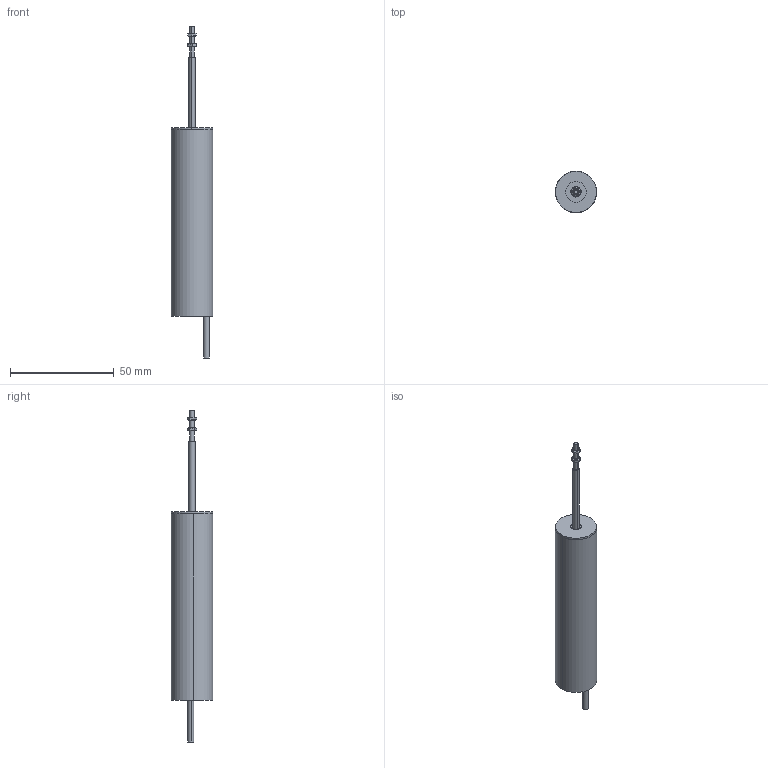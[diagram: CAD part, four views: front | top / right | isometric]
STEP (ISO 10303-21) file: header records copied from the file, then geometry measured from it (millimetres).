
FILE_DESCRIPTION(('STEP AP203'),'1');
FILE_NAME('C:/TPO v2/SharedFS/Outgoing/burster_8740-5025_1rdux7vgn6tc4f6s25i7vjoc2.stp','2013-08-26T20:14:42',('TraceParts'),('TraceParts S.A.'),'XStep 1.0',' ',' ');
FILE_SCHEMA(('CONFIG_CONTROL_DESIGN'));
Length unit declared in the file: millimetre
Products named in the file (4): 1; 2; 3; 4
Bounding box: 19.83 x 19.83 x 160 mm (x, y, z)
Volume: 28085.5 mm3; surface area: 9019.8 mm2
Topology: 4 solids, 7 shells, 98 faces, 210 edges, 133 vertices
Faces by surface type: cylinder 36, plane 34, cone 22, torus 6
Entity records: 2836 total; most frequent: DIRECTION 502, CARTESIAN_POINT 491, ORIENTED_EDGE 416, AXIS2_PLACEMENT_3D 216, EDGE_CURVE 208, VERTEX_POINT 133, EDGE_LOOP 117, CIRCLE 114
